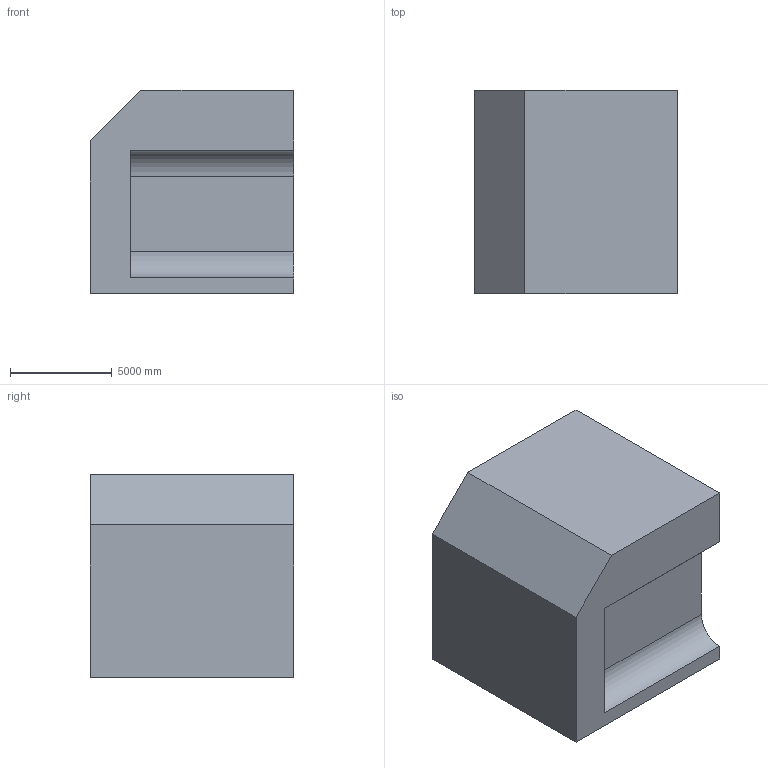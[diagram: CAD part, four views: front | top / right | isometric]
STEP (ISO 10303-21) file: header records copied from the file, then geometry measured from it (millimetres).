
FILE_DESCRIPTION (( 'STEP AP203' ), '1' );
FILE_NAME ('1185.STEP', '2022-08-18T13:05:44', ( 'user' ), ( '' ), 'SwSTEP 2.0', 'SolidWorks 2021', '' );
FILE_SCHEMA (( 'CONFIG_CONTROL_DESIGN' ));
Length unit declared in the file: centimetre
Products named in the file (1): 1185
Bounding box: 10000 x 10000 x 10000 mm (x, y, z)
Volume: 910173736839.9 mm3; surface area: 591076219.9 mm2
Topology: 1 solids, 1 shells, 11 faces, 27 edges, 18 vertices
Faces by surface type: plane 9, cylinder 2
Entity records: 402 total; most frequent: CARTESIAN_POINT 57, DIRECTION 55, ORIENTED_EDGE 54, EDGE_CURVE 27, VECTOR 23, LINE 23, VERTEX_POINT 18, AXIS2_PLACEMENT_3D 16
